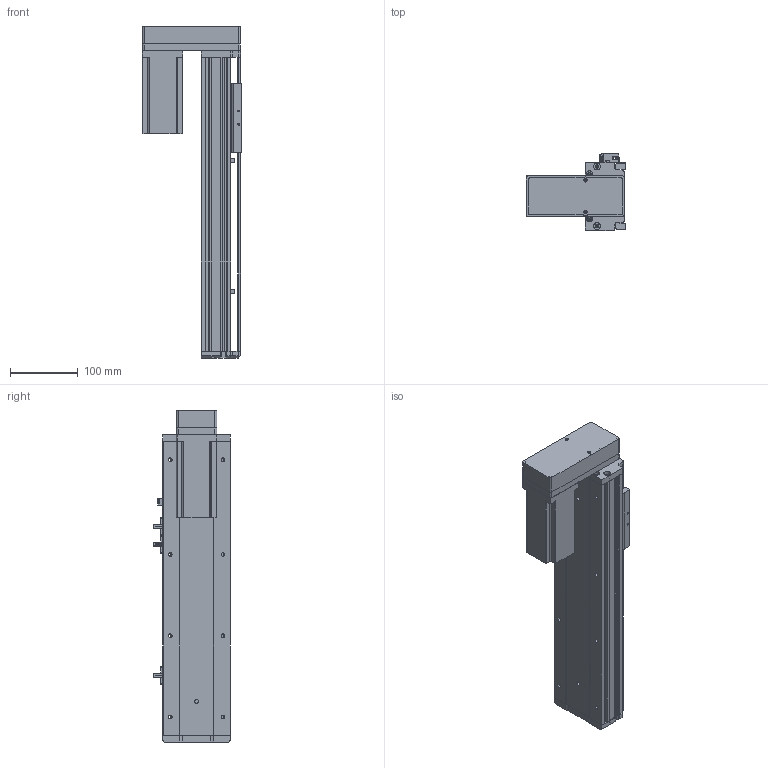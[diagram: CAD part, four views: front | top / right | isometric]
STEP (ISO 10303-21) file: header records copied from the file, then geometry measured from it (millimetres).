
FILE_DESCRIPTION (( 'STEP AP214' ), '1' );
FILE_NAME ('KSD100S-S250-MD-CM.STEP', '2019-08-30T03:09:23', ( '微软用户' ), ( '微软中国' ), 'SwSTEP 2.0', 'SolidWorks 2014', '' );
FILE_SCHEMA (( 'AUTOMOTIVE_DESIGN' ));
Length unit declared in the file: millimetre
Products named in the file (11): 悵誘欶奻狟殏; 100宽马达安装板连板上下折丝杆同步带; 假捶400W; 覜茼え100遵圉猾敕; U倰嫖萇EEㄜSX672; 100宽防尘板丝杆250行程; 100遵鎮湛假蚾啣; 100宽滚珠螺姆安装板半封闭; 100遵傷啣; 100宽底板半封闭丝杆250行程; KSD100S-S250-MD-CM
Assembly tree (12 placements, depth 2):
  KSD100S-S250-MD-CM
    100宽底板半封闭丝杆250行程
    100遵傷啣
    100宽滚珠螺姆安装板半封闭
    100遵鎮湛假蚾啣
    100宽防尘板丝杆250行程
    U倰嫖萇EEㄜSX672  x3
    覜茼え100遵圉猾敕
    假捶400W
    100宽马达安装板连板上下折丝杆同步带
    悵誘欶奻狟殏
Bounding box: 147 x 113.7 x 490.5 mm (x, y, z)
Volume: 1498171.5 mm3; surface area: 454652.4 mm2
Topology: 13 solids, 13 shells, 1123 faces, 3142 edges, 2011 vertices
Faces by surface type: cylinder 532, plane 492, cone 99
Entity records: 38899 total; most frequent: CARTESIAN_POINT 6715, DIRECTION 5225, ORIENTED_EDGE 4992, EDGE_CURVE 2496, AXIS2_PLACEMENT_3D 1885, VERTEX_POINT 1635, VECTOR 1455, LINE 1455
